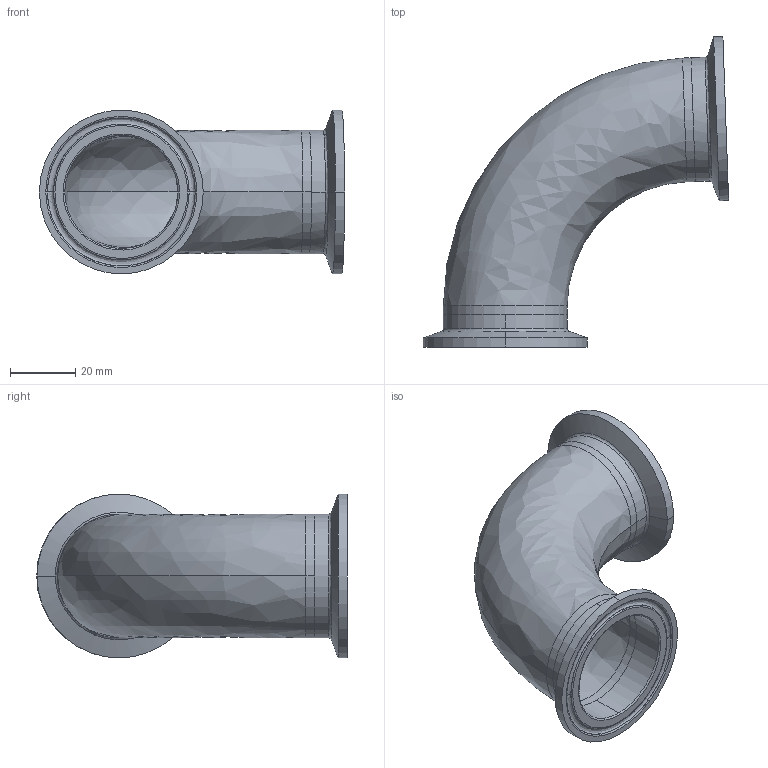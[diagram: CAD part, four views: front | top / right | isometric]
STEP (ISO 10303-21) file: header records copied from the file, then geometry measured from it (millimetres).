
FILE_DESCRIPTION (( 'STEP AP214' ), '1' );
FILE_NAME ('TEG2C886L1.5-...STEP', '2016-05-22T08:57:43', ( 'eran' ), ( '' ), 'SwSTEP 2.0', 'SolidWorks 2016', '' );
FILE_SCHEMA (( 'AUTOMOTIVE_DESIGN' ));
Length unit declared in the file: millimetre
Products named in the file (1): TEG2C886L1.5-..
Bounding box: 93.9 x 95.54 x 50.39 mm (x, y, z)
Volume: 27732.8 mm3; surface area: 30353.6 mm2
Topology: 3 solids, 3 shells, 64 faces, 156 edges, 100 vertices
Faces by surface type: bspline 24, cylinder 20, cone 12, plane 8
Entity records: 3187 total; most frequent: CARTESIAN_POINT 1631, DIRECTION 338, ORIENTED_EDGE 312, EDGE_CURVE 156, AXIS2_PLACEMENT_3D 153, CIRCLE 112, VERTEX_POINT 100, EDGE_LOOP 72
